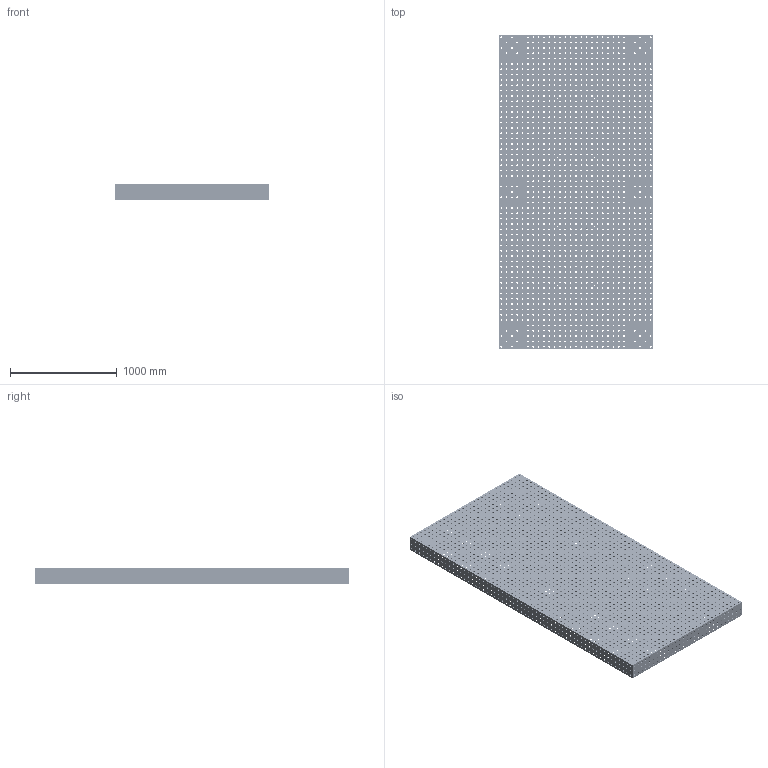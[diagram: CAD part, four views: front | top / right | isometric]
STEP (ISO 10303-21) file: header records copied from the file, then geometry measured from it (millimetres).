
FILE_DESCRIPTION(/* description */ (''),/* implementation_level */ '2;1');
FILE_NAME(/* name */ '3D Simplifi - 2950x1450 G3.step',/* time_stamp */ '2026-09-09T12:05:14+02:00',/* author */ (''),/* organization */ (''),/* preprocessor_version */ 'ST-DEVELOPER v20.2',/* originating_system */ 'Autodesk Translation Framework v15.15.0.0',/* authorisation */ '');
FILE_SCHEMA (('AUTOMOTIVE_DESIGN { 1 0 10303 214 3 1 1 }'));
Products named in the file (1): 2026-09-08-15-18-19-157
Bounding box: 1450 x 2950 x 150 mm (x, y, z)
Volume: 62339645.7 mm3; surface area: 21336615 mm2
Topology: 1 solids, 1 shells, 2780 faces, 8043 edges, 5362 vertices
Faces by surface type: cylinder 2313, plane 467
Full cylindrical faces by diameter (mm): 6.5 x24, 16 x2239, 17 x50
Entity records: 103354 total; most frequent: DIRECTION 18231, CARTESIAN_POINT 16186, ORIENTED_EDGE 16086, EDGE_CURVE 8043, EDGE_LOOP 7491, AXIS2_PLACEMENT_3D 7407, VERTEX_POINT 5362, FACE_BOUND 4711
